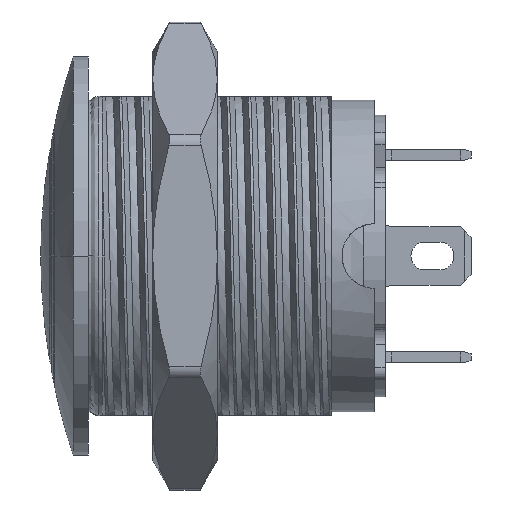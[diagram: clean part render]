
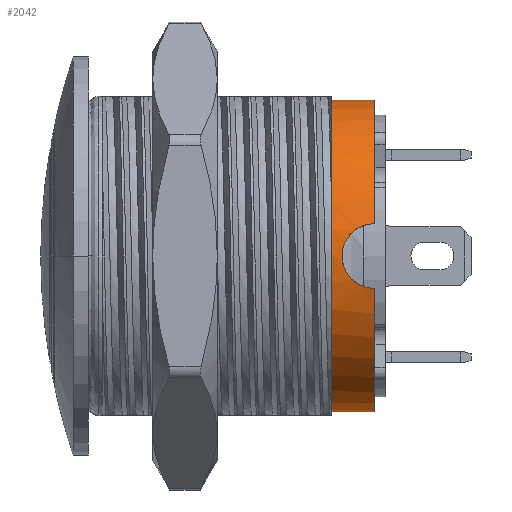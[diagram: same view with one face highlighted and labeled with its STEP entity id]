
A CAD part, left-side view. The second image highlights one B-rep face of the part: STEP entity #2042.
In plain terms, the highlighted cylindrical face has radius 7.25 mm (diameter 14.5 mm), a partial arc.
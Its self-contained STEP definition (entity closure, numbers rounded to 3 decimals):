
#1244 = ORIENTED_EDGE ( 'NONE', *, *, #15258, .F. ) ;
#1245 = ORIENTED_EDGE ( 'NONE', *, *, #1891, .F. ) ;
#1246 = ORIENTED_EDGE ( 'NONE', *, *, #1890, .F. ) ;
#1247 = ORIENTED_EDGE ( 'NONE', *, *, #1888, .F. ) ;
#1248 = ORIENTED_EDGE ( 'NONE', *, *, #15261, .T. ) ;
#1249 = ORIENTED_EDGE ( 'NONE', *, *, #1968, .T. ) ;
#1888 = EDGE_CURVE ( 'NONE', #3545, #3544, #14939, .T. ) ;
#1890 = EDGE_CURVE ( 'NONE', #3544, #3036, #4930, .T. ) ;
#1891 = EDGE_CURVE ( 'NONE', #3033, #3545, #4931, .T. ) ;
#1968 = EDGE_CURVE ( 'NONE', #3032, #3034, #4945, .T. ) ;
#2042 = ADVANCED_FACE ( 'NONE', ( #6522 ), #6523, .T. ) ;
#3032 = VERTEX_POINT ( 'NONE', #13596 ) ;
#3033 = VERTEX_POINT ( 'NONE', #13597 ) ;
#3034 = VERTEX_POINT ( 'NONE', #13598 ) ;
#3036 = VERTEX_POINT ( 'NONE', #13600 ) ;
#3262 = EDGE_LOOP ( 'NONE', ( #1244, #1246, #1247, #1245, #1248, #1249 ) ) ;
#3544 = VERTEX_POINT ( 'NONE', #13813 ) ;
#3545 = VERTEX_POINT ( 'NONE', #13814 ) ;
#4930 = CIRCLE ( 'NONE', #6362, 7.25 ) ;
#4931 = CIRCLE ( 'NONE', #6377, 7.25 ) ;
#4945 = CIRCLE ( 'NONE', #6410, 7.25 ) ;
#6362 = AXIS2_PLACEMENT_3D ( 'NONE', #7427, #7431, #7432 ) ;
#6377 = AXIS2_PLACEMENT_3D ( 'NONE', #7433, #7434, #7435 ) ;
#6410 = AXIS2_PLACEMENT_3D ( 'NONE', #8198, #8199, #8200 ) ;
#6520 = AXIS2_PLACEMENT_3D ( 'NONE', #8958, #8959, #8960 ) ;
#6522 = FACE_OUTER_BOUND ( 'NONE', #3262, .T. ) ;
#6523 = CYLINDRICAL_SURFACE ( 'NONE', #6520, 7.25 ) ;
#7395 = CARTESIAN_POINT ( 'NONE',  ( -7.093, 0.5, 1.5 ) ) ;
#7402 = CARTESIAN_POINT ( 'NONE',  ( -7.093, 0.599, 1.5 ) ) ;
#7403 = CARTESIAN_POINT ( 'NONE',  ( -7.095, 0.697, 1.49 ) ) ;
#7404 = CARTESIAN_POINT ( 'NONE',  ( -7.103, 0.889, 1.452 ) ) ;
#7405 = CARTESIAN_POINT ( 'NONE',  ( -7.109, 0.984, 1.423 ) ) ;
#7406 = CARTESIAN_POINT ( 'NONE',  ( -7.124, 1.166, 1.348 ) ) ;
#7407 = CARTESIAN_POINT ( 'NONE',  ( -7.132, 1.252, 1.302 ) ) ;
#7408 = CARTESIAN_POINT ( 'NONE',  ( -7.151, 1.415, 1.193 ) ) ;
#7409 = CARTESIAN_POINT ( 'NONE',  ( -7.162, 1.492, 1.13 ) ) ;
#7410 = CARTESIAN_POINT ( 'NONE',  ( -7.192, 1.699, 0.923 ) ) ;
#7411 = CARTESIAN_POINT ( 'NONE',  ( -7.213, 1.81, 0.756 ) ) ;
#7412 = CARTESIAN_POINT ( 'NONE',  ( -7.241, 1.96, 0.395 ) ) ;
#7413 = CARTESIAN_POINT ( 'NONE',  ( -7.25, 2., 0.197 ) ) ;
#7414 = CARTESIAN_POINT ( 'NONE',  ( -7.25, 2., -0.097 ) ) ;
#7415 = CARTESIAN_POINT ( 'NONE',  ( -7.248, 1.99, -0.197 ) ) ;
#7416 = CARTESIAN_POINT ( 'NONE',  ( -7.24, 1.952, -0.389 ) ) ;
#7417 = CARTESIAN_POINT ( 'NONE',  ( -7.234, 1.924, -0.483 ) ) ;
#7418 = CARTESIAN_POINT ( 'NONE',  ( -7.213, 1.811, -0.756 ) ) ;
#7419 = CARTESIAN_POINT ( 'NONE',  ( -7.193, 1.7, -0.921 ) ) ;
#7420 = CARTESIAN_POINT ( 'NONE',  ( -7.162, 1.492, -1.13 ) ) ;
#7421 = CARTESIAN_POINT ( 'NONE',  ( -7.152, 1.416, -1.192 ) ) ;
#7422 = CARTESIAN_POINT ( 'NONE',  ( -7.133, 1.254, -1.3 ) ) ;
#7423 = CARTESIAN_POINT ( 'NONE',  ( -7.124, 1.166, -1.347 ) ) ;
#7424 = CARTESIAN_POINT ( 'NONE',  ( -7.102, 0.894, -1.46 ) ) ;
#7425 = CARTESIAN_POINT ( 'NONE',  ( -7.093, 0.699, -1.5 ) ) ;
#7426 = CARTESIAN_POINT ( 'NONE',  ( -7.093, 0.5, -1.5 ) ) ;
#7427 = CARTESIAN_POINT ( 'NONE',  ( 0., 0.5, 0. ) ) ;
#7431 = DIRECTION ( 'NONE',  ( 0., -1., 0. ) ) ;
#7432 = DIRECTION ( 'NONE',  ( 0., 0., 1. ) ) ;
#7433 = CARTESIAN_POINT ( 'NONE',  ( 0., 0.5, 0. ) ) ;
#7434 = DIRECTION ( 'NONE',  ( 0., -1., 0. ) ) ;
#7435 = DIRECTION ( 'NONE',  ( 0., 0., 1. ) ) ;
#8198 = CARTESIAN_POINT ( 'NONE',  ( 0., 2.5, 0. ) ) ;
#8199 = DIRECTION ( 'NONE',  ( 0., -1., 0. ) ) ;
#8200 = DIRECTION ( 'NONE',  ( 0., 0., 1. ) ) ;
#8958 = CARTESIAN_POINT ( 'NONE',  ( 0., 0.5, 0. ) ) ;
#8959 = DIRECTION ( 'NONE',  ( 0., 1., 0. ) ) ;
#8960 = DIRECTION ( 'NONE',  ( 0., 0., 1. ) ) ;
#13094 = VECTOR ( 'NONE', #14454, 1000. ) ;
#13095 = VECTOR ( 'NONE', #14463, 1000. ) ;
#13596 = CARTESIAN_POINT ( 'NONE',  ( 0., 2.5, 7.25 ) ) ;
#13597 = CARTESIAN_POINT ( 'NONE',  ( 0., 0.5, 7.25 ) ) ;
#13598 = CARTESIAN_POINT ( 'NONE',  ( 0., 2.5, -7.25 ) ) ;
#13600 = CARTESIAN_POINT ( 'NONE',  ( 0., 0.5, -7.25 ) ) ;
#13813 = CARTESIAN_POINT ( 'NONE',  ( -7.093, 0.5, -1.5 ) ) ;
#13814 = CARTESIAN_POINT ( 'NONE',  ( -7.093, 0.5, 1.5 ) ) ;
#14452 = LINE ( 'NONE', #14453, #13094 ) ;
#14453 = CARTESIAN_POINT ( 'NONE',  ( 0., 0.5, -7.25 ) ) ;
#14454 = DIRECTION ( 'NONE',  ( 0., 1., 0. ) ) ;
#14461 = LINE ( 'NONE', #14462, #13095 ) ;
#14462 = CARTESIAN_POINT ( 'NONE',  ( 0., 0.5, 7.25 ) ) ;
#14463 = DIRECTION ( 'NONE',  ( 0., 1., 0. ) ) ;
#14939 = B_SPLINE_CURVE_WITH_KNOTS ( 'NONE', 3,
 ( #7395, #7402, #7403, #7404, #7405, #7406, #7407, #7408, #7409, #7410, #7411, #7412, #7413, #7414, #7415, #7416, #7417, #7418, #7419, #7420, #7421, #7422, #7423, #7424, #7425, #7426 ),
 .UNSPECIFIED., .F., .F.,
 ( 4, 2, 2, 2, 2, 2, 2, 2, 2, 2, 2, 2, 4 ),
 ( 0., 0., 0.001, 0.001, 0.001, 0.002, 0.002, 0.003, 0.003, 0.004, 0.004, 0.004, 0.005 ),
 .UNSPECIFIED. ) ;
#15258 = EDGE_CURVE ( 'NONE', #3036, #3034, #14452, .T. ) ;
#15261 = EDGE_CURVE ( 'NONE', #3033, #3032, #14461, .T. ) ;
